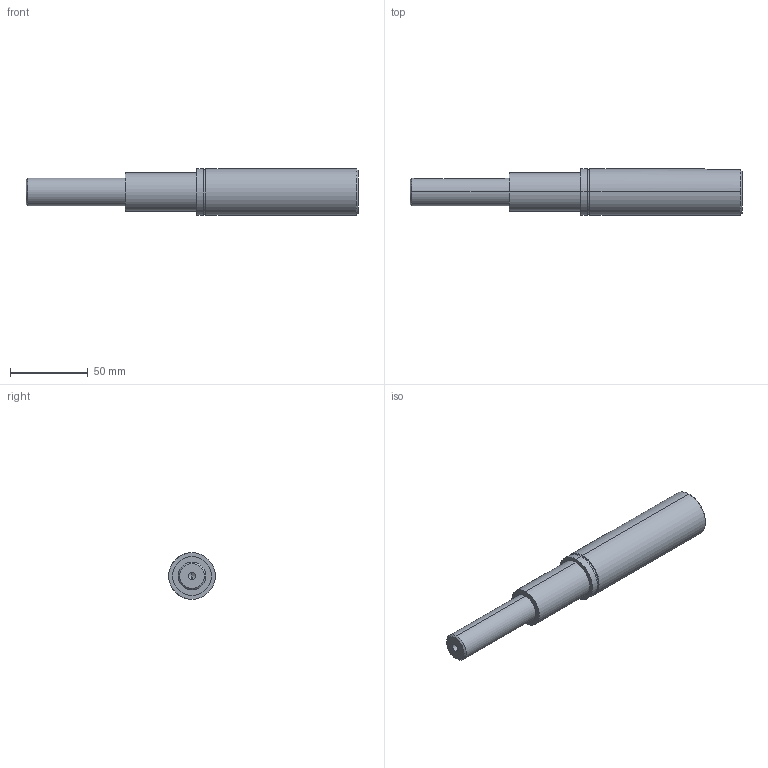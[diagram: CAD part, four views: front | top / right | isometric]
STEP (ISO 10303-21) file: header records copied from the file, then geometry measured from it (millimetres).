
FILE_DESCRIPTION (( 'STEP AP203' ), '1' );
FILE_NAME ('084.812.001.STEP', '2013-01-29T14:02:26', ( 'Alusic' ), ( 'Alusic' ), 'SwSTEP 2.0', 'SolidWorks 2011', '' );
FILE_SCHEMA (( 'CONFIG_CONTROL_DESIGN' ));
Length unit declared in the file: millimetre
Products named in the file (1): 084.812.001
Bounding box: 214 x 30 x 30 mm (x, y, z)
Volume: 109950.1 mm3; surface area: 19288.4 mm2
Topology: 1 solids, 1 shells, 34 faces, 75 edges, 47 vertices
Faces by surface type: cylinder 15, plane 12, cone 7
Entity records: 1096 total; most frequent: CARTESIAN_POINT 254, DIRECTION 171, ORIENTED_EDGE 146, EDGE_CURVE 73, AXIS2_PLACEMENT_3D 68, VERTEX_POINT 47, EDGE_LOOP 40, VECTOR 35
